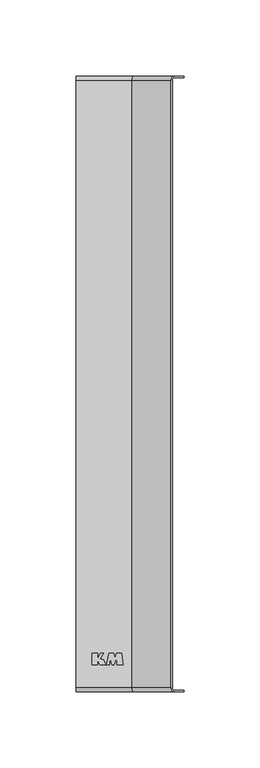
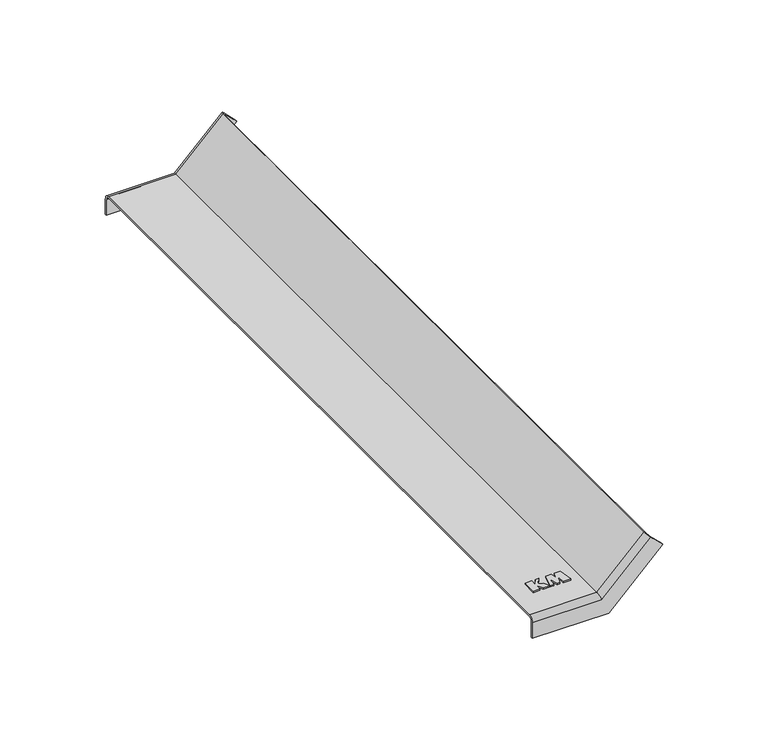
"""IFC4 building model written with IfcOpenShell, lengths in millimetres: cable carrier fitting geometry, КМ Профиль Крышка внутреннего вертикального угла KNL45 : Крышка вертикального внутреннего угла 45°."""

import ifcopenshell
import ifcopenshell.guid

model = None  # the IFC model being written
_history = None  # IfcOwnerHistory: only IFC2X3 demands one
_inside = {}  # id of a spatial element -> (the spatial element, [elements in it])
_under = {}  # id of a project, library or spatial element -> (it, [spatial elements below it])
_declared = {}  # id of a project -> (the project, [libraries it declares])
_typed = {}  # id of a type object -> (the type object, [elements of that type])
_made_of = {}  # id of a material, layer set ... -> (it, [elements and type objects made of it])


def new_model(schema):
    """Start an empty IFC model of exactly this schema.

    Asked for "IFC4X3", IfcOpenShell would pick the latest addendum, in which some entities
    have other attributes; the version numbers below select the first issue.
    IFC2X3 requires an IfcOwnerHistory on every rooted entity: one is made here for all.
    """
    global model, _history
    if schema == "IFC4X3":
        model = ifcopenshell.file(schema_version=(4, 3, 0, 0))
    else:
        model = ifcopenshell.file(schema=schema)
    _inside.clear()
    _under.clear()
    _declared.clear()
    _typed.clear()
    _made_of.clear()
    _history = None
    if model.schema == "IFC2X3":
        org = make("IfcOrganization", Name="unknown")
        user = make(
            "IfcPersonAndOrganization",
            ThePerson=make("IfcPerson", FamilyName="unknown"),
            TheOrganization=org,
        )
        app = make(
            "IfcApplication",
            ApplicationDeveloper=org,
            Version="unknown",
            ApplicationFullName="unknown",
            ApplicationIdentifier="unknown",
        )
        _history = make(
            "IfcOwnerHistory",
            OwningUser=user,
            OwningApplication=app,
            ChangeAction="ADDED",
            CreationDate=0,
        )
    return model


def make(cls, **values):
    """One entity of the class cls with the attributes given. An attribute that is None is left unset."""
    return model.create_entity(
        cls, **{name: value for name, value in values.items() if value is not None}
    )


def rooted(cls, **values):
    """An entity with a GlobalId (a new one), such as an element, a storey or a relation."""
    return make(cls, GlobalId=ifcopenshell.guid.new(), OwnerHistory=_history, **values)


def si_unit(unit_type, name, prefix=None):
    """IfcSIUnit, for example si_unit("LENGTHUNIT", "METRE", prefix="MILLI")."""
    return make("IfcSIUnit", UnitType=unit_type, Prefix=prefix, Name=name)


def assignment(units):
    """IfcUnitAssignment: the units of a project."""
    return None if units is None else make("IfcUnitAssignment", Units=units)


def point(xyz):
    """IfcCartesianPoint."""
    return None if xyz is None else make("IfcCartesianPoint", Coordinates=xyz)


def direction(xyz):
    """IfcDirection."""
    return None if xyz is None else make("IfcDirection", DirectionRatios=xyz)


def frame(location, z_axis=None, x_axis=None):
    """IfcAxis2Placement3D, a coordinate frame: its origin and axes. An axis left out is left unset."""
    return make(
        "IfcAxis2Placement3D",
        Location=point(location),
        Axis=direction(z_axis),
        RefDirection=direction(x_axis),
    )


def origin():
    """The frame at (0, 0, 0) with its axes left unset."""
    return frame((0.0, 0.0, 0.0))


def place(relative_to, where):
    """IfcLocalPlacement: puts the frame where relative to a parent placement (None: the world)."""
    return make(
        "IfcLocalPlacement", PlacementRelTo=relative_to, RelativePlacement=where
    )


def context(
    kind, dimensions, precision=None, world=None, true_north=None, identifier=None
):
    """IfcGeometricRepresentationContext, for example the 3D "Model" context."""
    return make(
        "IfcGeometricRepresentationContext",
        ContextIdentifier=identifier,
        ContextType=kind,
        CoordinateSpaceDimension=dimensions,
        Precision=precision,
        WorldCoordinateSystem=world,
        TrueNorth=true_north,
    )


def project(units=None, contexts=None):
    """IfcProject with its units and contexts."""
    return rooted(
        "IfcProject",
        Name="project",
        RepresentationContexts=contexts,
        UnitsInContext=assignment(units),
    )


def spatial(cls, under=None, at=None, **own):
    """A site, building, storey or space (cls), placed at a placement, below another one or the project."""
    s = rooted(cls, ObjectPlacement=at, **own)
    if under is not None:
        _under.setdefault(under.id(), (under, []))[1].append(s)
    return s


def polyline(points):
    """IfcPolyline through the points."""
    return make("IfcPolyline", Points=[point(p) for p in points])


def circle_curve(where, radius):
    """IfcCircle in the frame where."""
    return make("IfcCircle", Position=where, Radius=radius)


def ellipse_curve(where, semi_axis1, semi_axis2):
    """IfcEllipse in the frame where."""
    return make(
        "IfcEllipse", Position=where, SemiAxis1=semi_axis1, SemiAxis2=semi_axis2
    )


def outline(outer, holes=None, kind="AREA"):
    """IfcArbitraryClosedProfileDef: a profile drawn as a closed curve; with holes, ...WithVoids."""
    if holes is None:
        return make("IfcArbitraryClosedProfileDef", ProfileType=kind, OuterCurve=outer)
    return make(
        "IfcArbitraryProfileDefWithVoids",
        ProfileType=kind,
        OuterCurve=outer,
        InnerCurves=holes,
    )


def extrude(swept, where, along, depth):
    """IfcExtrudedAreaSolid: the profile swept, set in the frame where, extruded along a direction by depth."""
    return make(
        "IfcExtrudedAreaSolid",
        SweptArea=swept,
        Position=where,
        ExtrudedDirection=direction(along),
        Depth=depth,
    )


def shape(context_of_items, identifier, shape_type, items):
    """IfcShapeRepresentation: the items that make up one representation, for example the "Body"."""
    return make(
        "IfcShapeRepresentation",
        ContextOfItems=context_of_items,
        RepresentationIdentifier=identifier,
        RepresentationType=shape_type,
        Items=items,
    )


def source(mapping_origin, context_of_items, identifier, shape_type, items):
    """IfcRepresentationMap: a shape defined once, which mapped items show again and again."""
    return make(
        "IfcRepresentationMap",
        MappingOrigin=mapping_origin,
        MappedRepresentation=shape(context_of_items, identifier, shape_type, items),
    )


def transform(
    local_origin,
    x_axis=None,
    y_axis=None,
    z_axis=None,
    scale=None,
    scale2=None,
    scale3=None,
    uniform=True,
):
    """IfcCartesianTransformationOperator3D, or its non-uniform kind. x_axis, y_axis, z_axis: its Axis1, 2, 3."""
    if uniform:
        return make(
            "IfcCartesianTransformationOperator3D",
            Axis1=direction(x_axis),
            Axis2=direction(y_axis),
            LocalOrigin=point(local_origin),
            Scale=scale,
            Axis3=direction(z_axis),
        )
    return make(
        "IfcCartesianTransformationOperator3DnonUniform",
        Axis1=direction(x_axis),
        Axis2=direction(y_axis),
        LocalOrigin=point(local_origin),
        Scale=scale,
        Axis3=direction(z_axis),
        Scale2=scale2,
        Scale3=scale3,
    )


def mapped(mapping_source, mapping_target):
    """IfcMappedItem: shows the shape of a source again, moved by a transform."""
    return make(
        "IfcMappedItem", MappingSource=mapping_source, MappingTarget=mapping_target
    )


def made_of(thing, what):
    """Note that an element or type object is made of a material, layer set ...; save() writes the relation."""
    if what is not None:
        _made_of.setdefault(what.id(), (what, []))[1].append(thing)
    return thing


def element(
    cls,
    number,
    at=None,
    inside=None,
    cuts=None,
    type_object=None,
    material=None,
    context=None,
    identifier="Body",
    shape_type=None,
    held_by="IfcProductDefinitionShape",
    body=None,
    shapes=None,
    **own,
):
    """One element of the class cls, such as IfcWall. Its Tag is "e" and its number.

    at: its placement. inside: the storey or other place that contains it. cuts: it is an
    opening in that element (IfcRelVoidsElement). A single representation is given by context,
    identifier, shape_type and body (its items); several are given by shapes. held_by: the class
    of the entity that holds the representations. save() writes the other relations.
    """
    e = rooted(cls, Tag="e%d" % number, ObjectPlacement=at, **own)
    if body is not None:
        shapes = [shape(context, identifier, shape_type, body)]
    if shapes is not None:
        e.Representation = make(held_by, Representations=shapes)
    if inside is not None:
        _inside.setdefault(inside.id(), (inside, []))[1].append(e)
    if cuts is not None:
        rooted(
            "IfcRelVoidsElement", RelatingBuildingElement=cuts, RelatedOpeningElement=e
        )
    if type_object is not None:
        _typed.setdefault(type_object.id(), (type_object, []))[1].append(e)
    return made_of(e, material)


def aggregate(whole, parts):
    """IfcRelAggregates: a whole, such as a stair, and the parts it consists of."""
    return rooted("IfcRelAggregates", RelatingObject=whole, RelatedObjects=parts)


def save(model, path):
    """Write the relations noted so far, then the file.

    IfcRelAggregates (storeys below a building ...), IfcRelContainedInSpatialStructure (elements
    in a storey), IfcRelDefinesByType, IfcRelAssociatesMaterial and IfcRelDeclares: one each for
    every whole, place, type object, material and project.
    """
    for whole, parts in _under.values():
        aggregate(whole, parts)
    for where, things in _inside.values():
        rooted(
            "IfcRelContainedInSpatialStructure",
            RelatedElements=things,
            RelatingStructure=where,
        )
    for kind, things in _typed.values():
        rooted("IfcRelDefinesByType", RelatedObjects=things, RelatingType=kind)
    for what, things in _made_of.values():
        rooted("IfcRelAssociatesMaterial", RelatedObjects=things, RelatingMaterial=what)
    for by, libraries in _declared.values():
        rooted("IfcRelDeclares", RelatingContext=by, RelatedDefinitions=libraries)
    model.write(path)


def plane_surface(at):
    """IfcPlane: the flat surface through the origin of the frame at, square to its z axis."""
    return make("IfcPlane", Position=at)


def cylinder_surface(at, radius):
    """IfcCylindricalSurface: all points at the distance radius from the z axis of the frame at."""
    return make("IfcCylindricalSurface", Position=at, Radius=radius)


def revolved_surface(curve, axis_point, axis_direction):
    """IfcSurfaceOfRevolution: the curve turned about the line through axis_point along axis_direction."""
    return make(
        "IfcSurfaceOfRevolution",
        SweptCurve=make("IfcArbitraryOpenProfileDef", ProfileType="CURVE", Curve=curve),
        AxisPosition=make("IfcAxis1Placement", Location=point(axis_point), Axis=direction(axis_direction)),
    )


def advanced_brep(points, edges, surfaces, faces):
    """IfcAdvancedBrep: a solid bounded by faces that lie on surfaces and meet in shared edges.

    An edge is (start, end): straight between two places in points (the first is 0);
    or (start, end, curve); or (start, end, curve, False) where it runs against its curve.
    A face is (place in surfaces, loops), or (place, loops, False) where it looks against
    its surface's normal. A loop lists edges by number (the first is 1), with a minus sign
    where the edge is run from its end to its start. The first loop is the outer one.
    """
    corners = [point(p) for p in points]
    vertices = [make("IfcVertexPoint", VertexGeometry=c) for c in corners]
    made = []
    for start, end, *more in edges:
        made.append(
            make(
                "IfcEdgeCurve",
                EdgeStart=vertices[start],
                EdgeEnd=vertices[end],
                EdgeGeometry=more[0] if more else make("IfcPolyline", Points=[corners[start], corners[end]]),
                SameSense=more[1] if len(more) > 1 else True,
            )
        )
    hull = []
    for where, loops, *sense in faces:
        bounds = []
        for j, loop in enumerate(loops):
            ring = [make("IfcOrientedEdge", EdgeElement=made[abs(k) - 1], Orientation=k > 0) for k in loop]
            bounds.append(
                make(
                    "IfcFaceOuterBound" if j == 0 else "IfcFaceBound",
                    Bound=make("IfcEdgeLoop", EdgeList=ring),
                    Orientation=True,
                )
            )
        hull.append(make("IfcAdvancedFace", Bounds=bounds, FaceSurface=surfaces[where], SameSense=sense[0] if sense else True))
    return make("IfcAdvancedBrep", Outer=make("IfcClosedShell", CfsFaces=hull))


def cable_carrier_fitting_f4a76271(model_context):
    return source(origin(), model_context, "Body", "SolidModel", [
        extrude(outline(polyline([(10.7611219, -176.986157), (14.2683808, -176.986157), (14.2683808, -180.564509), (16.1710243, -176.986157), (18.296989, -176.986157), (15.8305045, -180.5086619), (18.0722556, -181.194034), (19.9395647, -184.737421), (16.0411533, -184.737421), (14.3369488, -181.5720802), (14.3369488, -184.737421), (10.7611219, -184.737421), (10.7611219, -176.986157)])), frame((0.0, 0.0, 3.0), z_axis=(0.0, 0.0, 1.0), x_axis=(1.0, 0.0, 0.0)), (0.0, 0.0, 1.0), 0.8),
        extrude(outline(polyline([(22.0037241, -184.737421), (20.1056605, -184.737421), (21.9259411, -176.9647569), (24.9566696, -176.9647569), (25.7231703, -180.0390232), (26.7444777, -176.9623682), (29.9384326, -176.9623682), (31.1299301, -184.7429915), (27.2274895, -184.7429915), (26.7499968, -180.0541919), (25.2699283, -184.7434681), (23.7954176, -184.7434681), (22.3873988, -180.0696135), (22.0037241, -184.737421)])), frame((0.0, 0.0, 3.0), z_axis=(0.0, 0.0, 1.0), x_axis=(1.0, 0.0, 0.0)), (0.0, 0.0, 1.0), 0.8),
        advanced_brep(
        [(0.0, -199.5, 3.0), (0.0, 199.5, 3.0), (0.0, 202.5, 0.0), (0.0, 202.5, -9.0), (0.0, 201.5, -9.0), (0.0, 201.5, 0.0), (0.0, 199.5, 2.0), (0.0, -199.5, 2.0), (0.0, -201.5, 0.0), (0.0, -201.5, -9.0), (0.0, -202.5, -9.0), (0.0, -202.5, 0.0), (36.7573593, -199.5, 3.0), (36.7573593, 199.5, 3.0), (38.0, 202.5, 0.0), (64.8700577, 202.5, 26.8700577), (71.2340187, 202.5, 20.5060967), (41.7279221, 202.5, -9.0), (41.7279221, 201.5, -9.0), (71.2340187, 201.5, 20.5060967), (64.8700577, 201.5, 26.8700577), (38.0, 201.5, 0.0), (37.1715729, 199.5, 2.0), (37.1715729, -199.5, 2.0), (38.0, -201.5, 0.0), (64.8700577, -201.5, 26.8700577), (71.2340187, -201.5, 20.5060967), (41.7279221, -201.5, -9.0), (41.7279221, -202.5, -9.0), (71.2340187, -202.5, 20.5060967), (64.8700577, -202.5, 26.8700577), (38.0, -202.5, 0.0), (62.7487373, -199.5, 28.991378), (63.4558441, -199.5, 28.2842712), (63.4558441, 199.5, 28.2842712), (62.7487373, 199.5, 28.991378)],
        [
            (0, 1),
            (1, 2, circle_curve(frame((0.0, 199.5, 0.0), z_axis=(-1.0, 0.0, 0.0), x_axis=(0.0, 0.0, 1.0)), 3.0)),
            (2, 3),
            (3, 4),
            (4, 5),
            (5, 6, circle_curve(frame((0.0, 199.5, 0.0), z_axis=(1.0, 0.0, 0.0), x_axis=(0.0, 0.0, 1.0)), 2.0)),
            (6, 7),
            (7, 8, circle_curve(frame((0.0, -199.5, 0.0), z_axis=(1.0, 0.0, 0.0), x_axis=(0.0, 0.0, 1.0)), 2.0)),
            (8, 9),
            (9, 10),
            (10, 11),
            (11, 0, circle_curve(frame((0.0, -199.5, 0.0), z_axis=(-1.0, 0.0, 0.0), x_axis=(0.0, 0.0, 1.0)), 3.0)),
            (0, 12),
            (12, 13),
            (13, 1),
            (13, 14, ellipse_curve(frame((38.0, 199.5, 0.0), z_axis=(-0.9238795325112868, 0.0, -0.3826834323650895), x_axis=(-0.38268343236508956, 0.0, 0.9238795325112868)), 3.2471766, 3.0)),
            (14, 2),
            (14, 15),
            (15, 16),
            (16, 17),
            (17, 3),
            (17, 18),
            (18, 4),
            (18, 19),
            (19, 20),
            (20, 21),
            (21, 5),
            (21, 22, ellipse_curve(frame((38.0, 199.5, 0.0), z_axis=(0.9238795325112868, 0.0, 0.3826834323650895), x_axis=(0.38268343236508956, 0.0, -0.9238795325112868)), 2.1647844, 2.0)),
            (22, 6),
            (22, 23),
            (23, 7),
            (23, 24, ellipse_curve(frame((38.0, -199.5, 0.0), z_axis=(0.9238795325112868, 0.0, 0.3826834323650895), x_axis=(0.38268343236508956, 0.0, -0.9238795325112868)), 2.1647844, 2.0)),
            (24, 8),
            (24, 25),
            (25, 26),
            (26, 27),
            (27, 9),
            (27, 28),
            (28, 10),
            (28, 29),
            (29, 30),
            (30, 31),
            (31, 11),
            (31, 12, ellipse_curve(frame((38.0, -199.5, 0.0), z_axis=(-0.9238795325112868, 0.0, -0.3826834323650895), x_axis=(-0.38268343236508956, 0.0, 0.9238795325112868)), 3.2471766, 3.0)),
            (32, 30, circle_curve(frame((64.8700577, -199.5, 26.8700577), z_axis=(0.707106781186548, 0.0, 0.7071067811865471), x_axis=(-0.7071067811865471, 0.0, 0.707106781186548)), 3.0)),
            (29, 26),
            (25, 33, circle_curve(frame((64.8700577, -199.5, 26.8700577), z_axis=(-0.707106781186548, 0.0, -0.7071067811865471), x_axis=(-0.7071067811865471, 0.0, 0.707106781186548)), 2.0)),
            (33, 34),
            (34, 20, circle_curve(frame((64.8700577, 199.5, 26.8700577), z_axis=(-0.707106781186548, 0.0, -0.7071067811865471), x_axis=(-0.7071067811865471, 0.0, 0.707106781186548)), 2.0)),
            (19, 16),
            (15, 35, circle_curve(frame((64.8700577, 199.5, 26.8700577), z_axis=(0.707106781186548, 0.0, 0.7071067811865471), x_axis=(-0.7071067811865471, 0.0, 0.707106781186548)), 3.0)),
            (35, 32),
            (12, 32),
            (35, 13),
            (34, 22),
            (33, 23),
        ],
        [
            plane_surface(frame((0.0, 0.0, 0.0), z_axis=(-1.0, 0.0, 0.0), x_axis=(0.0, -1.0, 0.0))),
            plane_surface(frame((0.0, -199.5, 3.0), z_axis=(0.0, 0.0, 1.0), x_axis=(1.0, 0.0, 0.0))),
            cylinder_surface(frame((0.0, 199.5, 0.0), z_axis=(-1.0, 0.0, 0.0), x_axis=(0.0, 0.0, 1.0)), 3.0),
            plane_surface(frame((0.0, 202.5, 0.0), z_axis=(0.0, 1.0, 0.0), x_axis=(1.0, 0.0, 0.0))),
            plane_surface(frame((0.0, 202.5, -9.0), z_axis=(0.0, 0.0, -1.0), x_axis=(1.0, 0.0, 0.0))),
            plane_surface(frame((0.0, 201.5, -9.0), z_axis=(0.0, -1.0, 0.0), x_axis=(1.0, 0.0, 0.0))),
            revolved_surface(polyline([(38.8284271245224, 199.5, 2.0), (0.0, 199.5, 2.0)]), (0.0, 199.5, 0.0), (1.0, 0.0, 0.0)),
            plane_surface(frame((0.0, 199.5, 2.0), z_axis=(0.0, 0.0, -1.0), x_axis=(1.0, 0.0, 0.0))),
            revolved_surface(polyline([(38.8284271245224, -199.5, 2.0), (0.0, -199.5, 2.0)]), (0.0, -199.5, 0.0), (1.0, 0.0, 0.0)),
            plane_surface(frame((0.0, -201.5, 0.0), z_axis=(0.0, 1.0, 0.0), x_axis=(1.0, 0.0, 0.0))),
            plane_surface(frame((0.0, -201.5, -9.0), z_axis=(0.0, 0.0, -1.0), x_axis=(1.0, 0.0, 0.0))),
            plane_surface(frame((0.0, -202.5, -9.0), z_axis=(0.0, -1.0, 0.0), x_axis=(1.0, 0.0, 0.0))),
            cylinder_surface(frame((0.0, -199.5, 0.0), z_axis=(-1.0, 0.0, 0.0), x_axis=(0.0, 0.0, 1.0)), 3.0),
            plane_surface(frame((64.8700577, 0.0, 26.8700577), z_axis=(0.707106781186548, 0.0, 0.7071067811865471), x_axis=(0.0, -1.0, 0.0))),
            plane_surface(frame((36.7573593, -199.5, 3.0), z_axis=(-0.7071067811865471, 0.0, 0.707106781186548), x_axis=(0.707106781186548, 0.0, 0.7071067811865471))),
            cylinder_surface(frame((38.0, 199.5, 0.0), z_axis=(-0.707106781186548, 0.0, -0.7071067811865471), x_axis=(-0.7071067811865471, 0.0, 0.707106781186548)), 3.0),
            plane_surface(frame((41.7279221, 202.5, -9.0), z_axis=(0.7071067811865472, 0.0, -0.7071067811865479), x_axis=(0.7071067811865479, 0.0, 0.7071067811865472))),
            revolved_surface(polyline([(63.455844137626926, 199.5, 28.284271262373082), (36.000000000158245, 199.5, 0.8284271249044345)]), (38.0, 199.5, 0.0), (0.707106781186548, 0.0, 0.7071067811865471)),
            plane_surface(frame((37.1715729, 199.5, 2.0), z_axis=(0.707106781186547, 0.0, -0.707106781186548), x_axis=(0.707106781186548, 0.0, 0.707106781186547))),
            revolved_surface(polyline([(63.455844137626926, -199.5, 28.284271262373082), (36.000000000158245, -199.5, 0.8284271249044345)]), (38.0, -199.5, 0.0), (0.707106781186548, 0.0, 0.7071067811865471)),
            plane_surface(frame((41.7279221, -201.5, -9.0), z_axis=(0.7071067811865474, 0.0, -0.7071067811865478), x_axis=(0.7071067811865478, 0.0, 0.7071067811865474))),
            cylinder_surface(frame((38.0, -199.5, 0.0), z_axis=(-0.707106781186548, 0.0, -0.7071067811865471), x_axis=(-0.7071067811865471, 0.0, 0.707106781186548)), 3.0),
        ],
        [
            (0, [[1, 2, 3, 4, 5, 6, 7, 8, 9, 10, 11, 12]]),
            (1, [[-1, 13, 14, 15]]),
            (2, [[-2, -15, 16, 17]]),
            (3, [[-3, -17, 18, 19, 20, 21]]),
            (4, [[-4, -21, 22, 23]]),
            (5, [[-5, -23, 24, 25, 26, 27]]),
            (6, [[-6, -27, 28, 29]]),
            (7, [[-7, -29, 30, 31]]),
            (8, [[-8, -31, 32, 33]]),
            (9, [[-9, -33, 34, 35, 36, 37]]),
            (10, [[-10, -37, 38, 39]]),
            (11, [[-11, -39, 40, 41, 42, 43]]),
            (12, [[-12, -43, 44, -13]]),
            (13, [[45, -41, 46, -35, 47, 48, 49, -25, 50, -19, 51, 52]]),
            (14, [[-14, 53, -52, 54]]),
            (15, [[-16, -54, -51, -18]]),
            (16, [[-22, -20, -50, -24]]),
            (17, [[-28, -26, -49, 55]]),
            (18, [[-30, -55, -48, 56]]),
            (19, [[-32, -56, -47, -34]]),
            (20, [[-38, -36, -46, -40]]),
            (21, [[-44, -42, -45, -53]]),
        ],
    ),
    ])


if __name__ == "__main__":
    model = new_model("IFC4")
    model_context = context("Model", 3, world=origin())
    ifc_project = project(units=[si_unit("LENGTHUNIT", "METRE", prefix="MILLI")], contexts=[model_context])
    site = spatial("IfcSite", under=ifc_project)
    building = spatial("IfcBuilding", under=site)
    placement = place(None, origin())
    cable_carrier_fitting_shape = cable_carrier_fitting_f4a76271(model_context)
    element("IfcCableCarrierFitting", 1, ObjectType="КМ Профиль Крышка внутреннего вертикального угла KNL45 : Крышка вертикального внутреннего угла 45°", at=placement, inside=building, context=model_context, shape_type="MappedRepresentation", body=[
        mapped(cable_carrier_fitting_shape, transform((0.0, 0.0, 0.0), x_axis=(1.0, 0.0, 0.0), y_axis=(0.0, 1.0, 0.0), z_axis=(0.0, 0.0, 1.0))),
    ])
    save(model, "model.ifc")
